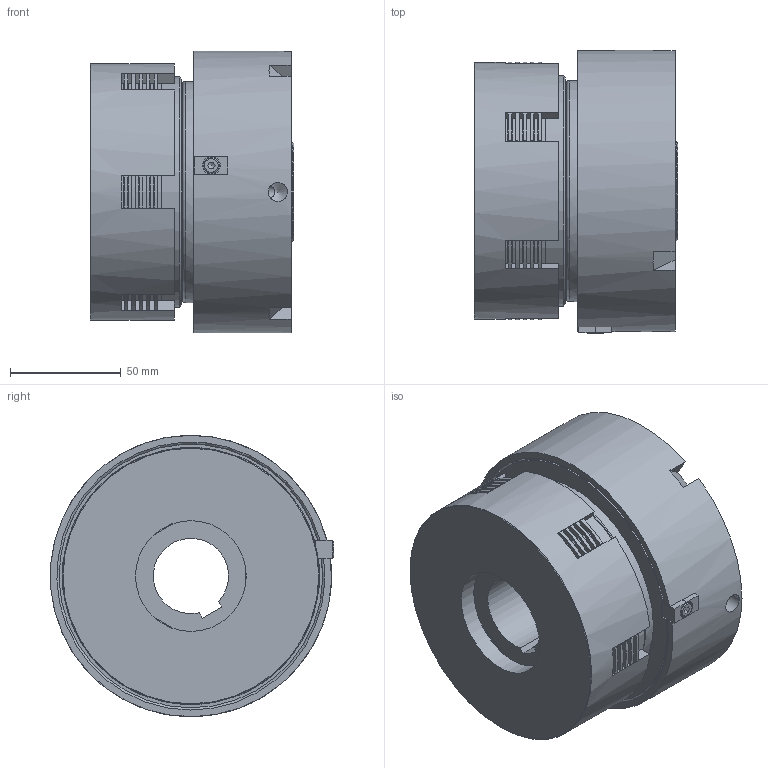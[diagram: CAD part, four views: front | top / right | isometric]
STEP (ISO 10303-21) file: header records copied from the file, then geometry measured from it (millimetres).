
FILE_DESCRIPTION(/* description */ (''),/* implementation_level */ '2;1');
FILE_NAME(/* name */ '\\Srv-tecnico\DATI\UFFICIO TECNICO\ARCHIVIO INVENTOR\DISEGNI\UFFICIO TECNICO\03_Friz_Oleodinamiche e Pneumatiche_Cilindro_Statico\03_08 LP\03_08_004_01 LP04\03_08_004_01 LP04@STEP.stp',/* time_stamp */ '2015-05-13T16:45:11+02:00',/* author */ ('stefano'),/* organization */ (''),/* preprocessor_version */ 'ST-DEVELOPER v15.6',/* originating_system */ 'Autodesk Inventor 2015',/* authorisation */ '');
FILE_SCHEMA (('AUTOMOTIVE_DESIGN { 1 0 10303 214 3 1 1 }'));
Length unit declared in the file: millimetre
Products named in the file (1): 03_08_004_01 LP04_Substitute_1
Bounding box: 92 x 128 x 126.98 mm (x, y, z)
Volume: 693375.2 mm3; surface area: 312107.3 mm2
Topology: 15 solids, 15 shells, 602 faces, 1770 edges, 1157 vertices
Faces by surface type: plane 303, cylinder 196, torus 55, cone 26, sphere 22
Full cylindrical faces by diameter (mm): 2 x3, 2.5 x4, 2.75 x15, 3 x2, 3.5 x18, 6 x1, 7 x1, 8.566 x1, 42.5 x2, 45 x4, 50 x1, 52 x1, 54.6 x2, 65 x1, 65.4 x2, 66 x1, 67 x6, 74 x1, 75 x3, 76.2 x2, 79 x1, 80 x1, 85 x1, 88 x1, 88.8 x2, 100 x1, 104 x1, 104.25 x6, 105.8 x1, 110 x1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
Entity records: 21166 total; most frequent: CARTESIAN_POINT 5695, DIRECTION 3154, ORIENTED_EDGE 3082, EDGE_CURVE 1539, AXIS2_PLACEMENT_3D 1222, VERTEX_POINT 1064, EDGE_LOOP 863, LINE 710
